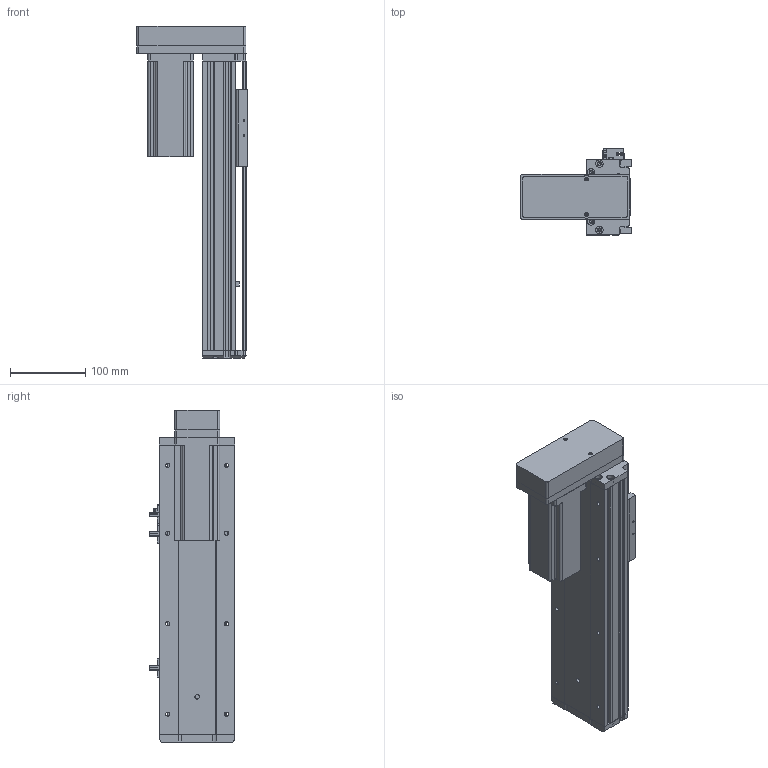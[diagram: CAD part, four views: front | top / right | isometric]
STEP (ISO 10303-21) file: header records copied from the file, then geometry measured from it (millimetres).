
FILE_DESCRIPTION (( 'STEP AP214' ), '1' );
FILE_NAME ('KSD100S-S200-MD-CM.STEP', '2019-08-30T02:53:28', ( '微软用户' ), ( '微软中国' ), 'SwSTEP 2.0', 'SolidWorks 2014', '' );
FILE_SCHEMA (( 'AUTOMOTIVE_DESIGN' ));
Length unit declared in the file: millimetre
Products named in the file (11): 悵誘欶奻狟殏; 100宽马达安装板连板上下折丝杆同步带; 台达ECMA－C20604AS伺服电机; 覜茼え100遵圉猾敕; U倰嫖萇EEㄜSX672; 100宽防尘板丝杆200行程; 100遵鎮湛假蚾啣; 100宽滚珠螺姆安装板半封闭; 100遵傷啣; 100宽底板半封闭丝杆200行程; KSD100S-S200-MD-CM
Assembly tree (12 placements, depth 2):
  KSD100S-S200-MD-CM
    100宽底板半封闭丝杆200行程
    100遵傷啣
    100宽滚珠螺姆安装板半封闭
    100遵鎮湛假蚾啣
    100宽防尘板丝杆200行程
    U倰嫖萇EEㄜSX672  x3
    覜茼え100遵圉猾敕
    台达ECMA－C20604AS伺服电机
    100宽马达安装板连板上下折丝杆同步带
    悵誘欶奻狟殏
Bounding box: 147 x 113.7 x 440.5 mm (x, y, z)
Volume: 1454014.5 mm3; surface area: 425449.8 mm2
Topology: 13 solids, 13 shells, 1115 faces, 3122 edges, 2001 vertices
Faces by surface type: cylinder 528, plane 492, cone 95
Entity records: 38647 total; most frequent: CARTESIAN_POINT 6681, DIRECTION 5185, ORIENTED_EDGE 4960, EDGE_CURVE 2480, AXIS2_PLACEMENT_3D 1869, VERTEX_POINT 1625, VECTOR 1447, LINE 1447
